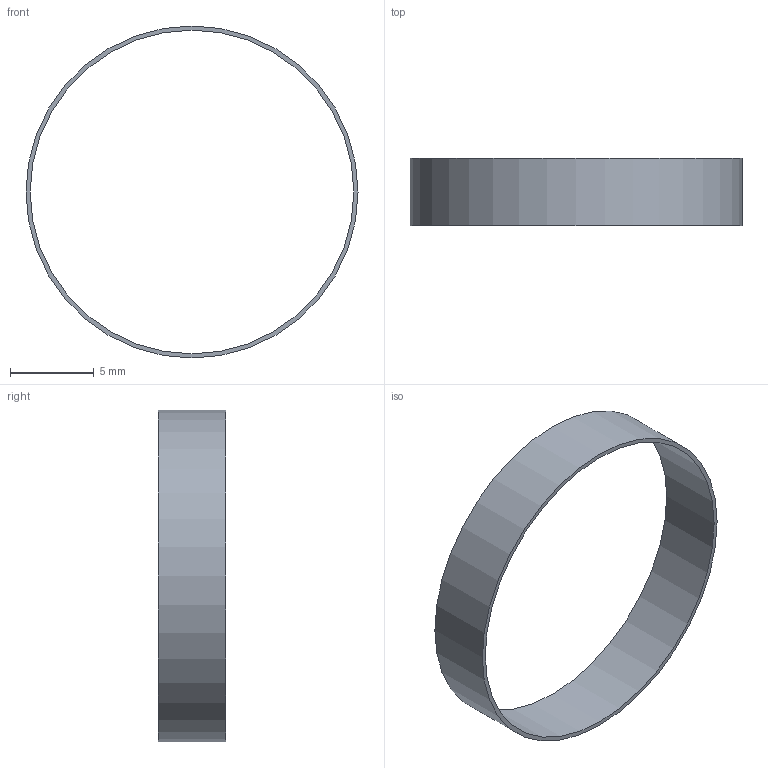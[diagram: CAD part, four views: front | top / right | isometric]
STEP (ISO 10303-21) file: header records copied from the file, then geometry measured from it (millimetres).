
FILE_DESCRIPTION(('FreeCAD Model'),'2;1');
FILE_NAME('Open CASCADE Shape Model','2026-10-24T11:59:22',('FreeCAD'),( 'FreeCAD'),'Open CASCADE STEP processor 7.8','FreeCAD','Unknown');
FILE_SCHEMA(('AUTOMOTIVE_DESIGN { 1 0 10303 214 1 1 1 1 }'));
Length unit declared in the file: millimetre
Products named in the file (1): Open CASCADE STEP translator 7.8 13
Bounding box: 19.8 x 4 x 19.8 mm (x, y, z)
Volume: 61.4 mm3; surface area: 522.1 mm2
Topology: 1 solids, 1 shells, 4 faces, 6 edges, 4 vertices
Faces by surface type: cylinder 2, plane 2
Full cylindrical faces by diameter (mm): 19.3 x1, 19.8 x1
Entity records: 108 total; most frequent: DIRECTION 20, CARTESIAN_POINT 15, ORIENTED_EDGE 12, AXIS2_PLACEMENT_3D 9, FACE_BOUND 6, EDGE_LOOP 6, EDGE_CURVE 6, ADVANCED_FACE 4
